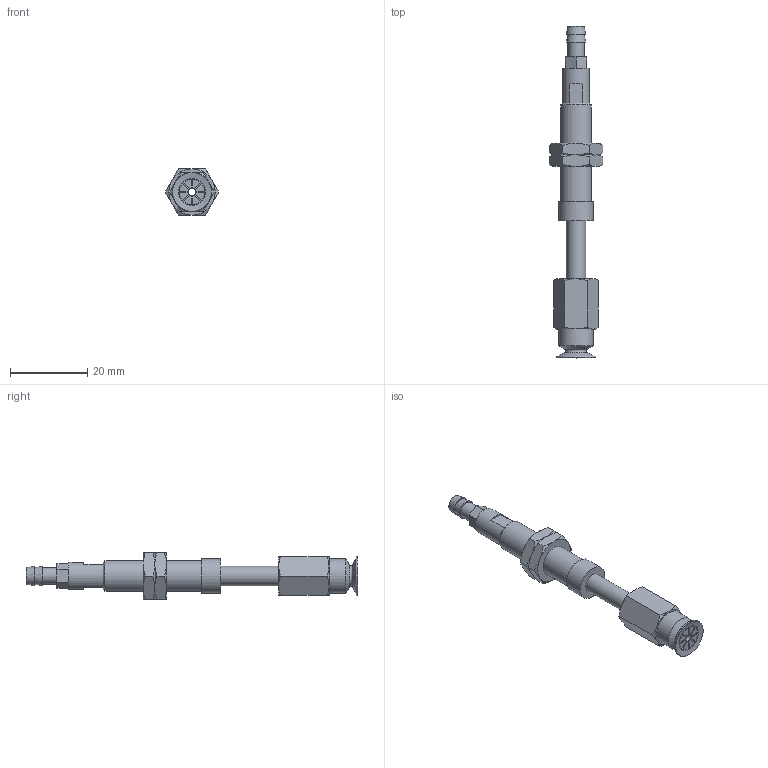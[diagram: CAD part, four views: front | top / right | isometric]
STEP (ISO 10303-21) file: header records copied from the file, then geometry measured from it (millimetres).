
FILE_DESCRIPTION(('STEP AP203'),'1');
FILE_NAME('-T.stp','2025-08-26T08:44:40',(' '),(' '),'Spatial InterOp 3D',' ',' ');
FILE_SCHEMA(('CONFIG_CONTROL_DESIGN'));
Length unit declared in the file: millimetre
Products named in the file (7): BNABPATS-10B-15-※-T; ADAPTER; NAPATS-10A-15--M; NAPATS-10A-15--F; Nut-10A-S; BPAG-10B-※_3D; T
Assembly tree (7 placements, depth 2):
  BNABPATS-10B-15-※-T
    ADAPTER
    NAPATS-10A-15--M
    NAPATS-10A-15--F
    Nut-10A-S  x2
    BPAG-10B-※_3D
    T
Bounding box: 13.86 x 86 x 12 mm (x, y, z)
Volume: 4133.2 mm3; surface area: 5104.4 mm2
Topology: 7 solids, 7 shells, 165 faces, 369 edges, 229 vertices
Faces by surface type: plane 77, cone 49, cylinder 28, torus 11
Full cylindrical faces by diameter (mm): 2 x3, 3 x1, 4 x2, 4.134 x1, 4.3 x1, 5 x3, 6 x2, 7 x2, 7.188 x2, 8 x1, 9 x2
Entity records: 4244 total; most frequent: CARTESIAN_POINT 902, DIRECTION 642, ORIENTED_EDGE 542, EDGE_CURVE 271, AXIS2_PLACEMENT_3D 269, EDGE_LOOP 206, VERTEX_POINT 193, FACE_OUTER_BOUND 172
